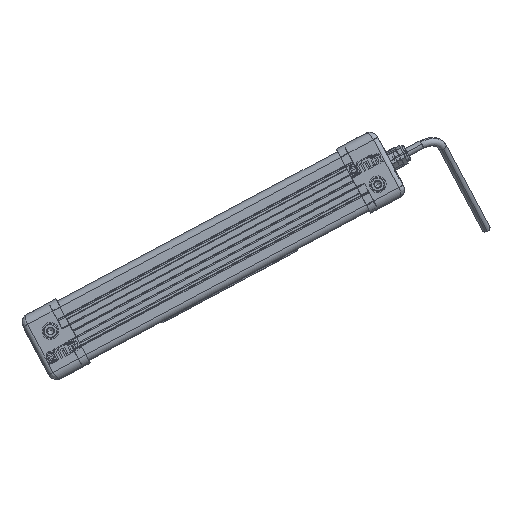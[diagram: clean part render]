
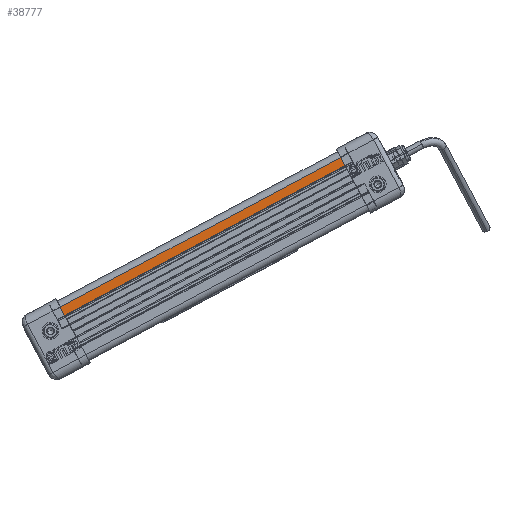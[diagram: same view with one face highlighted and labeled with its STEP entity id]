
A CAD part, front view. The second image highlights one B-rep face of the part: STEP entity #38777.
In plain terms, the highlighted planar face has unit normal (0, -1, 0) as drawn and (-1, 0, 0) by its records, which use the part's own axes.
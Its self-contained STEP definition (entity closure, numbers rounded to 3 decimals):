
#2121 = FACE_OUTER_BOUND ( 'NONE', #50678, .T. ) ;
#6066 = AXIS2_PLACEMENT_3D ( 'NONE', #11157, #42034, #24557 ) ;
#8369 = VERTEX_POINT ( 'NONE', #27344 ) ;
#8490 = VECTOR ( 'NONE', #33488, 1000. ) ;
#9014 = VERTEX_POINT ( 'NONE', #23936 ) ;
#11157 = CARTESIAN_POINT ( 'NONE',  ( -9., 16., 199. ) ) ;
#11626 = LINE ( 'NONE', #28027, #8490 ) ;
#12390 = ORIENTED_EDGE ( 'NONE', *, *, #42336, .T. ) ;
#13272 = CARTESIAN_POINT ( 'NONE',  ( -9., 16., 199. ) ) ;
#13524 = VECTOR ( 'NONE', #19795, 1000. ) ;
#14079 = VERTEX_POINT ( 'NONE', #25352 ) ;
#15618 = ORIENTED_EDGE ( 'NONE', *, *, #23668, .F. ) ;
#18632 = LINE ( 'NONE', #36969, #13524 ) ;
#19795 = DIRECTION ( 'NONE',  ( 0., -1., 0. ) ) ;
#20278 = EDGE_CURVE ( 'NONE', #9014, #8369, #18632, .T. ) ;
#20774 = EDGE_CURVE ( 'NONE', #14079, #30758, #52932, .T. ) ;
#23638 = CARTESIAN_POINT ( 'NONE',  ( -9., 10.5, 199. ) ) ;
#23668 = EDGE_CURVE ( 'NONE', #30758, #8369, #11626, .T. ) ;
#23936 = CARTESIAN_POINT ( 'NONE',  ( -9., 16., 0. ) ) ;
#24557 = DIRECTION ( 'NONE',  ( 0., 1., 0. ) ) ;
#25352 = CARTESIAN_POINT ( 'NONE',  ( -9., 16., 199. ) ) ;
#27344 = CARTESIAN_POINT ( 'NONE',  ( -9., 10.5, 0. ) ) ;
#28027 = CARTESIAN_POINT ( 'NONE',  ( -9., 10.5, 199. ) ) ;
#28887 = DIRECTION ( 'NONE',  ( 0., 0., -1. ) ) ;
#30758 = VERTEX_POINT ( 'NONE', #23638 ) ;
#31474 = ORIENTED_EDGE ( 'NONE', *, *, #20774, .F. ) ;
#33488 = DIRECTION ( 'NONE',  ( 0., 0., -1. ) ) ;
#33585 = PLANE ( 'NONE',  #6066 ) ;
#36969 = CARTESIAN_POINT ( 'NONE',  ( -9., 16., 0. ) ) ;
#37883 = VECTOR ( 'NONE', #28887, 1000. ) ;
#38777 = ADVANCED_FACE ( 'NONE', ( #2121 ), #33585, .F. ) ;
#42034 = DIRECTION ( 'NONE',  ( 1., 0., 0. ) ) ;
#42336 = EDGE_CURVE ( 'NONE', #14079, #9014, #53424, .T. ) ;
#46180 = ORIENTED_EDGE ( 'NONE', *, *, #20278, .T. ) ;
#48259 = DIRECTION ( 'NONE',  ( 0., -1., 0. ) ) ;
#50482 = CARTESIAN_POINT ( 'NONE',  ( -9., 16., 199. ) ) ;
#50678 = EDGE_LOOP ( 'NONE', ( #46180, #15618, #31474, #12390 ) ) ;
#52653 = VECTOR ( 'NONE', #48259, 1000. ) ;
#52932 = LINE ( 'NONE', #13272, #52653 ) ;
#53424 = LINE ( 'NONE', #50482, #37883 ) ;
